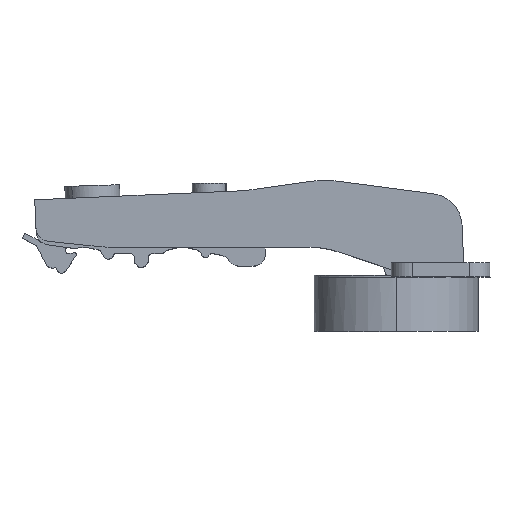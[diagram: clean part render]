
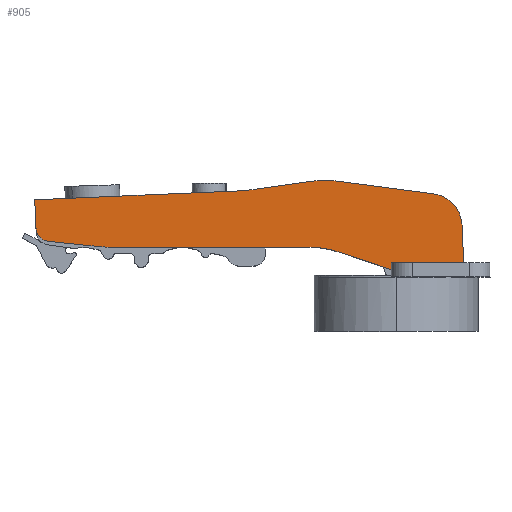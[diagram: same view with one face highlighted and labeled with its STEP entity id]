
A CAD part, top view. The second image highlights one B-rep face of the part: STEP entity #905.
In plain terms, the highlighted planar face has unit normal (0, 0, 1).
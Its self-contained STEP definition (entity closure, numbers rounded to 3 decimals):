
#30 = CIRCLE ( 'NONE', #4267, 7. ) ;
#118 = LINE ( 'NONE', #1384, #3344 ) ;
#122 = VERTEX_POINT ( 'NONE', #4167 ) ;
#139 = CARTESIAN_POINT ( 'NONE',  ( -22.986, -9.6, 8.6 ) ) ;
#168 = ORIENTED_EDGE ( 'NONE', *, *, #4289, .F. ) ;
#220 = CARTESIAN_POINT ( 'NONE',  ( -32.485, 42.28, 8.6 ) ) ;
#221 = AXIS2_PLACEMENT_3D ( 'NONE', #2129, #3119, #1831 ) ;
#244 = VERTEX_POINT ( 'NONE', #2283 ) ;
#265 = EDGE_LOOP ( 'NONE', ( #168, #490, #471, #1308, #4147, #1500, #811, #770, #3937, #1809, #413, #1591, #3592, #2152, #545, #1783 ) ) ;
#280 = AXIS2_PLACEMENT_3D ( 'NONE', #220, #917, #2895 ) ;
#374 = VERTEX_POINT ( 'NONE', #1815 ) ;
#397 = LINE ( 'NONE', #1736, #1430 ) ;
#413 = ORIENTED_EDGE ( 'NONE', *, *, #1197, .F. ) ;
#435 = CARTESIAN_POINT ( 'NONE',  ( -70.564, -8.355, 8.6 ) ) ;
#471 = ORIENTED_EDGE ( 'NONE', *, *, #2382, .T. ) ;
#490 = ORIENTED_EDGE ( 'NONE', *, *, #2674, .T. ) ;
#537 = CARTESIAN_POINT ( 'NONE',  ( 17.174, -4.916, 8.6 ) ) ;
#545 = ORIENTED_EDGE ( 'NONE', *, *, #1064, .F. ) ;
#606 = VECTOR ( 'NONE', #3667, 1000. ) ;
#653 = LINE ( 'NONE', #1964, #3859 ) ;
#687 = CARTESIAN_POINT ( 'NONE',  ( 11.095, 1.718, 8.6 ) ) ;
#770 = ORIENTED_EDGE ( 'NONE', *, *, #3802, .T. ) ;
#782 = CARTESIAN_POINT ( 'NONE',  ( -14.72, 4.383, 8.6 ) ) ;
#788 = VERTEX_POINT ( 'NONE', #782 ) ;
#811 = ORIENTED_EDGE ( 'NONE', *, *, #1466, .T. ) ;
#833 = DIRECTION ( 'NONE',  ( 0., 0., 1. ) ) ;
#836 = AXIS2_PLACEMENT_3D ( 'NONE', #2904, #3494, #2219 ) ;
#853 = AXIS2_PLACEMENT_3D ( 'NONE', #3033, #2400, #1081 ) ;
#884 = FACE_OUTER_BOUND ( 'NONE', #265, .T. ) ;
#905 = ADVANCED_FACE ( 'NONE', ( #884 ), #1541, .T. ) ;
#917 = DIRECTION ( 'NONE',  ( 0., 0., -1. ) ) ;
#959 = VERTEX_POINT ( 'NONE', #537 ) ;
#961 = VERTEX_POINT ( 'NONE', #1206 ) ;
#1011 = EDGE_CURVE ( 'NONE', #3163, #788, #2653, .T. ) ;
#1044 = EDGE_CURVE ( 'NONE', #374, #3571, #1927, .T. ) ;
#1062 = DIRECTION ( 'NONE',  ( -0.995, 0.105, 0. ) ) ;
#1064 = EDGE_CURVE ( 'NONE', #3571, #961, #2616, .T. ) ;
#1081 = DIRECTION ( 'NONE',  ( 1., 0., 0. ) ) ;
#1084 = VERTEX_POINT ( 'NONE', #1994 ) ;
#1160 = CARTESIAN_POINT ( 'NONE',  ( 17.294, -7.66, 8.6 ) ) ;
#1164 = EDGE_CURVE ( 'NONE', #4257, #1526, #2730, .T. ) ;
#1197 = EDGE_CURVE ( 'NONE', #1680, #4257, #118, .T. ) ;
#1206 = CARTESIAN_POINT ( 'NONE',  ( -8.91, -10.652, 8.6 ) ) ;
#1246 = EDGE_CURVE ( 'NONE', #2216, #244, #3117, .T. ) ;
#1308 = ORIENTED_EDGE ( 'NONE', *, *, #2534, .T. ) ;
#1384 = CARTESIAN_POINT ( 'NONE',  ( -63.136, -9.136, 8.6 ) ) ;
#1428 = CARTESIAN_POINT ( 'NONE',  ( 10.181, -5.222, 8.6 ) ) ;
#1430 = VECTOR ( 'NONE', #3395, 1000. ) ;
#1466 = EDGE_CURVE ( 'NONE', #4130, #1895, #2171, .T. ) ;
#1500 = ORIENTED_EDGE ( 'NONE', *, *, #2839, .T. ) ;
#1505 = CARTESIAN_POINT ( 'NONE',  ( 2.14, -14.386, 8.6 ) ) ;
#1526 = VERTEX_POINT ( 'NONE', #2659 ) ;
#1541 = PLANE ( 'NONE',  #221 ) ;
#1591 = ORIENTED_EDGE ( 'NONE', *, *, #3051, .T. ) ;
#1680 = VERTEX_POINT ( 'NONE', #2233 ) ;
#1734 = EDGE_CURVE ( 'NONE', #961, #244, #3871, .T. ) ;
#1736 = CARTESIAN_POINT ( 'NONE',  ( -34.42, 2.157, 8.6 ) ) ;
#1748 = CARTESIAN_POINT ( 'NONE',  ( 17.524, -12.934, 8.6 ) ) ;
#1783 = ORIENTED_EDGE ( 'NONE', *, *, #1044, .F. ) ;
#1809 = ORIENTED_EDGE ( 'NONE', *, *, #1164, .F. ) ;
#1815 = CARTESIAN_POINT ( 'NONE',  ( 2.138, -12.955, 8.6 ) ) ;
#1831 = DIRECTION ( 'NONE',  ( 1., 0., 0. ) ) ;
#1895 = VERTEX_POINT ( 'NONE', #3914 ) ;
#1909 = DIRECTION ( 'NONE',  ( -0.947, 0.32, 0. ) ) ;
#1927 = LINE ( 'NONE', #2940, #4231 ) ;
#1964 = CARTESIAN_POINT ( 'NONE',  ( -14.72, 4.383, 8.6 ) ) ;
#1994 = CARTESIAN_POINT ( 'NONE',  ( 11.095, 1.718, 8.6 ) ) ;
#2078 = DIRECTION ( 'NONE',  ( -1., 0., 0. ) ) ;
#2129 = CARTESIAN_POINT ( 'NONE',  ( 1.3, 0.311, 8.6 ) ) ;
#2152 = ORIENTED_EDGE ( 'NONE', *, *, #1734, .F. ) ;
#2165 = LINE ( 'NONE', #4145, #2605 ) ;
#2171 = CIRCLE ( 'NONE', #280, 40. ) ;
#2216 = VERTEX_POINT ( 'NONE', #4278 ) ;
#2219 = DIRECTION ( 'NONE',  ( 1., 0., 0. ) ) ;
#2233 = CARTESIAN_POINT ( 'NONE',  ( -60.282, -9.436, 8.6 ) ) ;
#2269 = VECTOR ( 'NONE', #3231, 1000. ) ;
#2283 = CARTESIAN_POINT ( 'NONE',  ( -15.312, -9.6, 8.6 ) ) ;
#2303 = DIRECTION ( 'NONE',  ( -0.99, -0.139, 0. ) ) ;
#2305 = CARTESIAN_POINT ( 'NONE',  ( -26.918, 2.669, 8.6 ) ) ;
#2382 = EDGE_CURVE ( 'NONE', #959, #1084, #30, .T. ) ;
#2400 = DIRECTION ( 'NONE',  ( 0., 0., -1. ) ) ;
#2418 = DIRECTION ( 'NONE',  ( -1., -0.001, 0. ) ) ;
#2423 = DIRECTION ( 'NONE',  ( 0., 0., 1. ) ) ;
#2487 = CARTESIAN_POINT ( 'NONE',  ( -11.936, -15.422, 8.6 ) ) ;
#2498 = CARTESIAN_POINT ( 'NONE',  ( -9.326, 4.407, 8.6 ) ) ;
#2534 = EDGE_CURVE ( 'NONE', #1084, #3163, #2637, .T. ) ;
#2605 = VECTOR ( 'NONE', #2418, 1000. ) ;
#2608 = CARTESIAN_POINT ( 'NONE',  ( -73.359, -2.948, 8.6 ) ) ;
#2616 = LINE ( 'NONE', #2918, #3756 ) ;
#2637 = LINE ( 'NONE', #687, #2762 ) ;
#2653 = CIRCLE ( 'NONE', #3547, 20. ) ;
#2655 = LINE ( 'NONE', #2608, #606 ) ;
#2659 = CARTESIAN_POINT ( 'NONE',  ( -73.248, -5.502, 8.6 ) ) ;
#2674 = EDGE_CURVE ( 'NONE', #3040, #959, #4124, .T. ) ;
#2687 = DIRECTION ( 'NONE',  ( -0.991, 0.131, 0. ) ) ;
#2730 = CIRCLE ( 'NONE', #853, 3. ) ;
#2762 = VECTOR ( 'NONE', #2687, 1000. ) ;
#2797 = VECTOR ( 'NONE', #3159, 1000. ) ;
#2839 = EDGE_CURVE ( 'NONE', #788, #4130, #653, .T. ) ;
#2862 = DIRECTION ( 'NONE',  ( 1., 0., 0. ) ) ;
#2895 = DIRECTION ( 'NONE',  ( 1., 0., 0. ) ) ;
#2904 = CARTESIAN_POINT ( 'NONE',  ( -15.312, -29.6, 8.6 ) ) ;
#2917 = EDGE_CURVE ( 'NONE', #1526, #122, #2655, .T. ) ;
#2918 = CARTESIAN_POINT ( 'NONE',  ( -8.91, -10.652, 8.6 ) ) ;
#2940 = CARTESIAN_POINT ( 'NONE',  ( 2.119, 0.313, 8.6 ) ) ;
#3033 = CARTESIAN_POINT ( 'NONE',  ( -70.25, -5.371, 8.6 ) ) ;
#3040 = VERTEX_POINT ( 'NONE', #1748 ) ;
#3051 = EDGE_CURVE ( 'NONE', #1680, #2216, #3583, .T. ) ;
#3117 = LINE ( 'NONE', #139, #2797 ) ;
#3119 = DIRECTION ( 'NONE',  ( 0., 0., 1. ) ) ;
#3159 = DIRECTION ( 'NONE',  ( 1., 0., 0. ) ) ;
#3163 = VERTEX_POINT ( 'NONE', #2498 ) ;
#3231 = DIRECTION ( 'NONE',  ( -0.044, 0.999, 0. ) ) ;
#3344 = VECTOR ( 'NONE', #1062, 1000. ) ;
#3395 = DIRECTION ( 'NONE',  ( -0.999, -0.044, 0. ) ) ;
#3494 = DIRECTION ( 'NONE',  ( 0., 0., 1. ) ) ;
#3547 = AXIS2_PLACEMENT_3D ( 'NONE', #2487, #3804, #2862 ) ;
#3571 = VERTEX_POINT ( 'NONE', #1505 ) ;
#3583 = CIRCLE ( 'NONE', #3727, 30. ) ;
#3592 = ORIENTED_EDGE ( 'NONE', *, *, #1246, .T. ) ;
#3667 = DIRECTION ( 'NONE',  ( -0.044, 0.999, 0. ) ) ;
#3713 = CARTESIAN_POINT ( 'NONE',  ( -57.146, 20.4, 8.6 ) ) ;
#3727 = AXIS2_PLACEMENT_3D ( 'NONE', #3713, #833, #2078 ) ;
#3742 = DIRECTION ( 'NONE',  ( 1., 0., 0. ) ) ;
#3756 = VECTOR ( 'NONE', #1909, 1000. ) ;
#3802 = EDGE_CURVE ( 'NONE', #1895, #122, #397, .T. ) ;
#3804 = DIRECTION ( 'NONE',  ( 0., 0., 1. ) ) ;
#3859 = VECTOR ( 'NONE', #2303, 1000. ) ;
#3866 = DIRECTION ( 'NONE',  ( 0.001, -1., 0. ) ) ;
#3871 = CIRCLE ( 'NONE', #836, 20. ) ;
#3914 = CARTESIAN_POINT ( 'NONE',  ( -30.74, 2.318, 8.6 ) ) ;
#3937 = ORIENTED_EDGE ( 'NONE', *, *, #2917, .F. ) ;
#4124 = LINE ( 'NONE', #1160, #2269 ) ;
#4130 = VERTEX_POINT ( 'NONE', #2305 ) ;
#4145 = CARTESIAN_POINT ( 'NONE',  ( 1.319, -12.957, 8.6 ) ) ;
#4147 = ORIENTED_EDGE ( 'NONE', *, *, #1011, .T. ) ;
#4167 = CARTESIAN_POINT ( 'NONE',  ( -73.508, 0.45, 8.6 ) ) ;
#4231 = VECTOR ( 'NONE', #3866, 1000. ) ;
#4257 = VERTEX_POINT ( 'NONE', #435 ) ;
#4267 = AXIS2_PLACEMENT_3D ( 'NONE', #1428, #2423, #3742 ) ;
#4278 = CARTESIAN_POINT ( 'NONE',  ( -57.146, -9.6, 8.6 ) ) ;
#4289 = EDGE_CURVE ( 'NONE', #3040, #374, #2165, .T. ) ;
